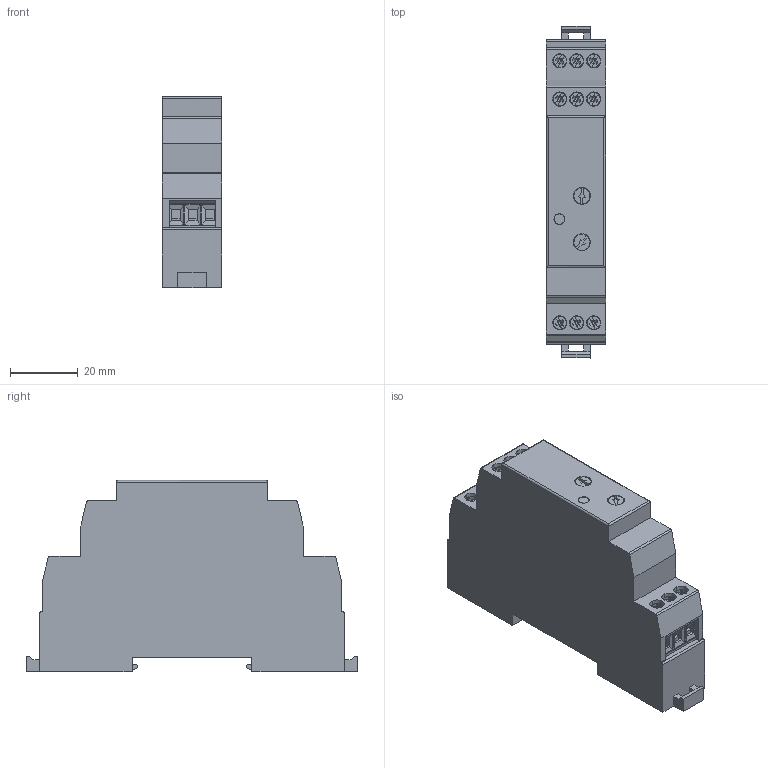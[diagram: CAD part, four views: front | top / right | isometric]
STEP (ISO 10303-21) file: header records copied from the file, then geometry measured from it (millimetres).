
FILE_DESCRIPTION (( 'STEP AP214' ), '1' );
FILE_NAME ('UTR13.STEP', '2024-04-15T06:47:33', ( '' ), ( '' ), 'SwSTEP 2.0', 'SolidWorks 2022', '' );
FILE_SCHEMA (( 'AUTOMOTIVE_DESIGN' ));
Length unit declared in the file: millimetre
Products named in the file (1): UTR13
Bounding box: 17.5 x 98 x 56.4 mm (x, y, z)
Volume: 72225.5 mm3; surface area: 17551.1 mm2
Topology: 1 solids, 1 shells, 822 faces, 2268 edges, 1484 vertices
Faces by surface type: plane 601, cylinder 197, cone 18, torus 6
Entity records: 39417 total; most frequent: CARTESIAN_POINT 10823, ORIENTED_EDGE 4536, DIRECTION 3391, EDGE_CURVE 2268, VECTOR 1569, LINE 1569, VERTEX_POINT 1484, EDGE_LOOP 916
